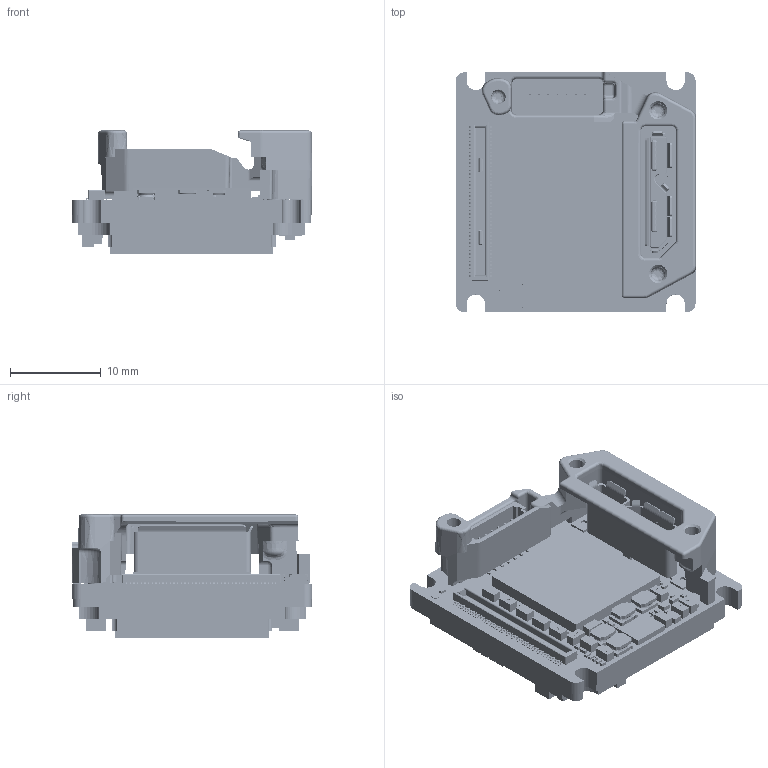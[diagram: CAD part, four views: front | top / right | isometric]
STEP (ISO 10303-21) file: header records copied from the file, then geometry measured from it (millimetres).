
FILE_DESCRIPTION (( 'STEP AP214' ), '1' );
FILE_NAME ('Alvium-USB180-Bare-Board-IMX18x17.STEP', '2022-10-24T08:40:07', ( '' ), ( '' ), 'SwSTEP 2.0', 'SolidWorks 2021', '' );
FILE_SCHEMA (( 'AUTOMOTIVE_DESIGN' ));
Length unit declared in the file: millimetre
Products named in the file (1): Alvium-USB180-Bare-Board-IMX18x17
Bounding box: 26.48 x 26.45 x 13.54 mm (x, y, z)
Volume: 4182.7 mm3; surface area: 6400.2 mm2
Topology: 183 solids, 183 shells, 10925 faces, 27585 edges, 18067 vertices
Faces by surface type: plane 5473, bspline 4176, cylinder 1172, cone 46, torus 40, sphere 18
Entity records: 683370 total; most frequent: CARTESIAN_POINT 326080, ORIENTED_EDGE 55152, DIRECTION 34998, EDGE_CURVE 27576, VERTEX_POINT 18067, VECTOR 16644, LINE 16644, EDGE_LOOP 11991
